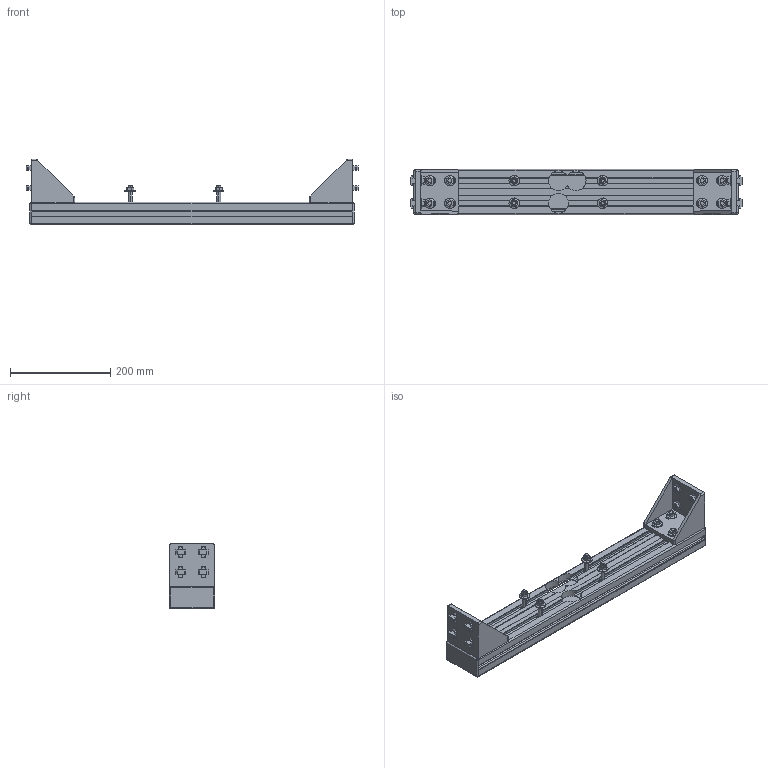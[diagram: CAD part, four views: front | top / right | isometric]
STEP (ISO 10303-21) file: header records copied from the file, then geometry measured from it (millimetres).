
FILE_DESCRIPTION (( 'STEP AP203' ), '1' );
FILE_NAME ('Asutec_75000061.STEP', '2021-11-16T10:42:08', ( '' ), ( '' ), 'SwSTEP 2.0', 'SolidWorks 2020', '' );
FILE_SCHEMA (( 'CONFIG_CONTROL_DESIGN' ));
Length unit declared in the file: millimetre
Products named in the file (1): Asutec_75000061
Bounding box: 662.6 x 90 x 131 mm (x, y, z)
Volume: 2098919.3 mm3; surface area: 507652.1 mm2
Topology: 7 solids, 7 shells, 1084 faces, 3052 edges, 1952 vertices
Faces by surface type: plane 795, cylinder 197, cone 76, sphere 8, bspline 8
Entity records: 35785 total; most frequent: CARTESIAN_POINT 8158, ORIENTED_EDGE 6088, DIRECTION 5360, EDGE_CURVE 3044, VECTOR 2096, LINE 2096, VERTEX_POINT 1952, AXIS2_PLACEMENT_3D 1632
